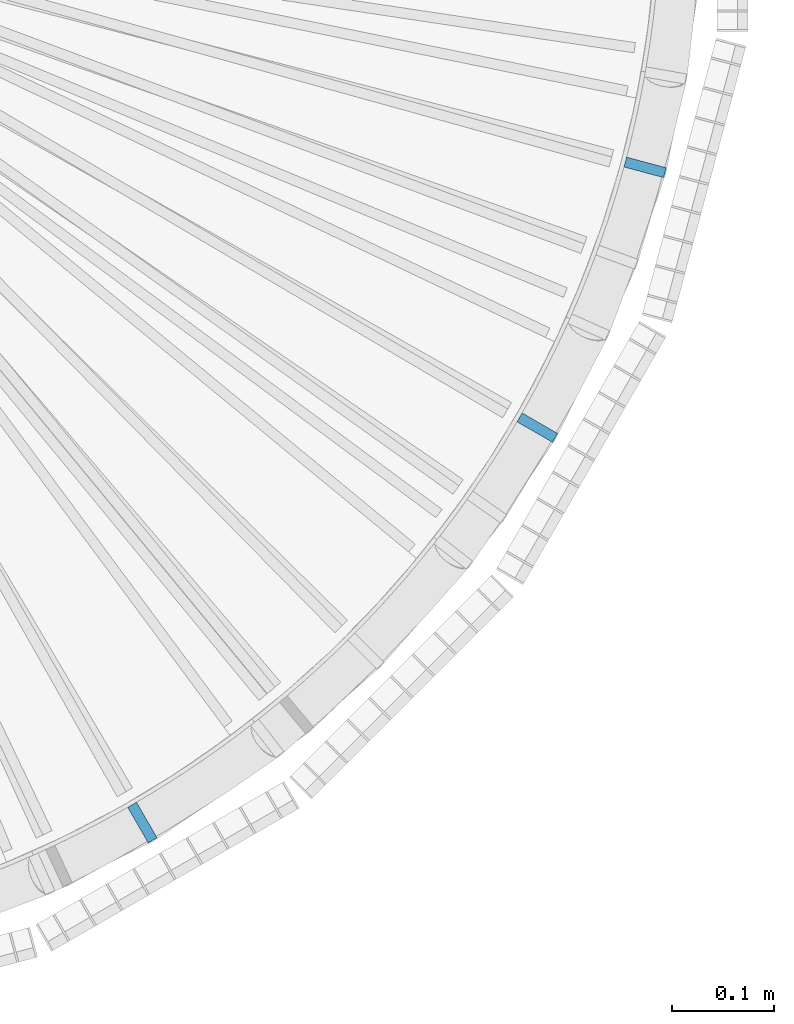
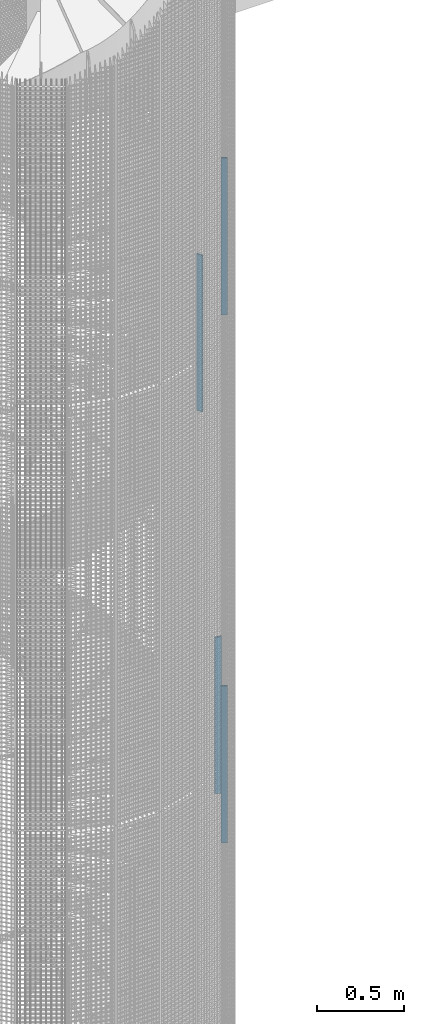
# One storey, part 14 of 1148: 4 columns, 4 elements without a shape of their own.
"""IFC2X3 building model written with IfcOpenShell, lengths in millimetres."""

from ifc_helpers import new_model, si_unit, frame, origin_with_axes, origin_2d_with_axis, place, context, subcontext, project, spatial, rectangle, extrude, material, type_object, element, aggregate, save


model = new_model("IFC2X3")

# Units and contexts
model_context = context("Model", 3, precision=1e-05, world=origin_with_axes())
body_context = subcontext(model_context, "Body", "Model", "MODEL_VIEW")
ifc_project = project(units=[si_unit("LENGTHUNIT", "METRE", prefix="MILLI"), si_unit("AREAUNIT", "SQUARE_METRE"), si_unit("VOLUMEUNIT", "CUBIC_METRE"), si_unit("MASSUNIT", "GRAM", prefix="KILO"), si_unit("TIMEUNIT", "SECOND"), si_unit("PLANEANGLEUNIT", "RADIAN"), si_unit("SOLIDANGLEUNIT", "STERADIAN"), si_unit("THERMODYNAMICTEMPERATUREUNIT", "DEGREE_CELSIUS"), si_unit("LUMINOUSINTENSITYUNIT", "LUMEN")], contexts=[model_context])

# Site, building, storey
site_placement = place(None, origin_with_axes())
site = spatial("IfcSite", under=ifc_project, at=site_placement, Name="Undefined", CompositionType="ELEMENT")
building_placement = place(site_placement, origin_with_axes())
building = spatial("IfcBuilding", under=site, at=building_placement, Name="Undefined", CompositionType="ELEMENT")
storey_placement = place(building_placement, origin_with_axes())
storey = spatial("IfcBuildingStorey", under=building, at=storey_placement, Name="Undefined", CompositionType="ELEMENT", Elevation=0.0)

# Assembly, column
assembly_1_placement = place(storey_placement, origin_with_axes())
assembly_1 = element("IfcElementAssembly", 1, at=assembly_1_placement, inside=storey, Name="MONTANT", AssemblyPlace="NOTDEFINED", PredefinedType="NOTDEFINED")
ifc_material = material(Name="STEEL/S235JR")
column_type = type_object("IfcColumnType", Name="PL10*40", PredefinedType="NOTDEFINED")
column_1_placement = place(assembly_1_placement, frame((1018.08582090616, -272.795273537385, 2317.8), z_axis=(0.0, 0.0, 1.0), x_axis=(-0.965925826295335, 0.258819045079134, 0.0)))
column_1 = element("IfcColumn", 2, at=column_1_placement, type_object=column_type, material=ifc_material, Name="MONTANT", context=body_context, shape_type="SweptSolid", body=[
    extrude(rectangle(XDim=10.0, YDim=40.0, at=origin_2d_with_axis()), frame((0.0, 0.0, 1100.0), z_axis=(0.0, 0.0, -1.0), x_axis=(0.0, 1.0, 0.0)), (0.0, 0.0, 1.0), 1100.0),
])
aggregate(assembly_1, [column_1])

assembly_2_placement = place(storey_placement, origin_with_axes())
assembly_2 = element("IfcElementAssembly", 3, at=assembly_2_placement, inside=storey, Name="MONTANT", AssemblyPlace="NOTDEFINED", PredefinedType="NOTDEFINED")
column_2_placement = place(assembly_2_placement, frame((527.000000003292, -912.790775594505, 5562.72), z_axis=(0.0, 0.0, 1.0), x_axis=(-0.49999999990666, 0.866025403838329, 0.0)))
column_2 = element("IfcColumn", 4, at=column_2_placement, type_object=column_type, material=ifc_material, Name="MONTANT", context=body_context, shape_type="SweptSolid", body=[
    extrude(rectangle(XDim=10.0, YDim=40.0, at=origin_2d_with_axis()), frame((0.0, 0.0, 1100.0), z_axis=(0.0, 0.0, -1.0), x_axis=(0.0, 1.0, 0.0)), (0.0, 0.0, 1.0), 1100.0),
])
aggregate(assembly_2, [column_2])

assembly_3_placement = place(storey_placement, origin_with_axes())
assembly_3 = element("IfcElementAssembly", 5, at=assembly_3_placement, inside=storey, Name="MONTANT", AssemblyPlace="NOTDEFINED", PredefinedType="NOTDEFINED")
column_3_placement = place(assembly_3_placement, frame((912.790775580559, -526.999999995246, 5871.76), z_axis=(0.0, 0.0, 1.0), x_axis=(-0.866025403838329, 0.499999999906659, 0.0)))
column_3 = element("IfcColumn", 6, at=column_3_placement, type_object=column_type, material=ifc_material, Name="MONTANT", context=body_context, shape_type="SweptSolid", body=[
    extrude(rectangle(XDim=10.0, YDim=40.0, at=origin_2d_with_axis()), frame((0.0, 0.0, 1100.0), z_axis=(0.0, 0.0, -1.0), x_axis=(0.0, 1.0, 0.0)), (0.0, 0.0, 1.0), 1100.0),
])
aggregate(assembly_3, [column_3])

assembly_4_placement = place(storey_placement, origin_with_axes())
assembly_4 = element("IfcElementAssembly", 7, at=assembly_4_placement, inside=storey, Name="MONTANT", AssemblyPlace="NOTDEFINED", PredefinedType="NOTDEFINED")
column_4_placement = place(assembly_4_placement, frame((912.790775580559, -526.999999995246, 2163.28), z_axis=(0.0, 0.0, 1.0), x_axis=(-0.866025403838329, 0.499999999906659, 0.0)))
column_4 = element("IfcColumn", 8, at=column_4_placement, type_object=column_type, material=ifc_material, Name="MONTANT", context=body_context, shape_type="SweptSolid", body=[
    extrude(rectangle(XDim=10.0, YDim=40.0, at=origin_2d_with_axis()), frame((0.0, 0.0, 1100.0), z_axis=(0.0, 0.0, -1.0), x_axis=(0.0, 1.0, 0.0)), (0.0, 0.0, 1.0), 1100.0),
])
aggregate(assembly_4, [column_4])

save(model, "model.ifc")
